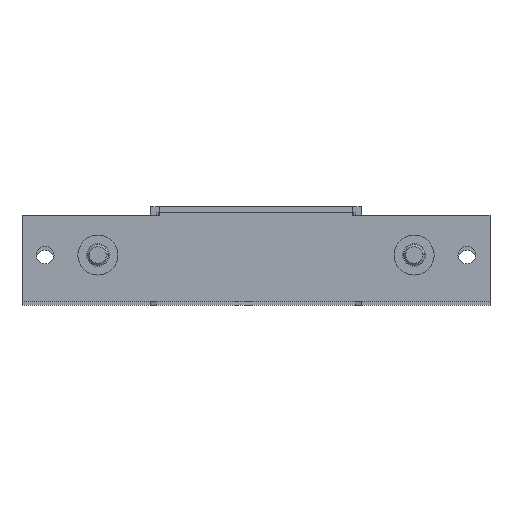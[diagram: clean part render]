
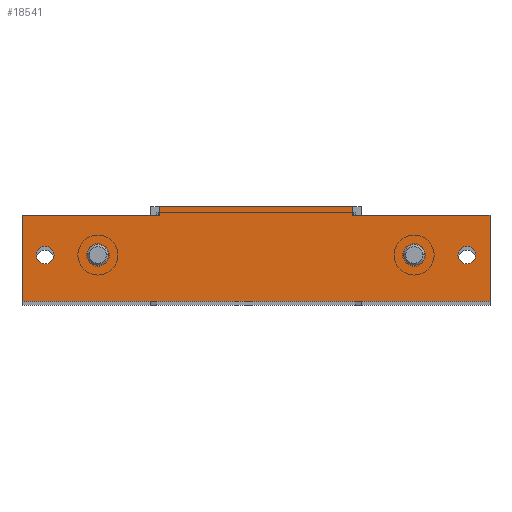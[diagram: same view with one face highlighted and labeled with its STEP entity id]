
A CAD part, top view. The second image highlights one B-rep face of the part: STEP entity #18541.
In plain terms, the highlighted planar face has unit normal (0, 0, 1).
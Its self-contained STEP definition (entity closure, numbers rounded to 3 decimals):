
#1906 = VERTEX_POINT('',#1907);
#1907 = CARTESIAN_POINT('',(-47.9,-11.5,273.5));
#1913 = EDGE_CURVE('',#1914,#1906,#1916,.T.);
#1914 = VERTEX_POINT('',#1915);
#1915 = CARTESIAN_POINT('',(-52.1,-11.5,273.5));
#1916 = CIRCLE('',#1917,2.1);
#1917 = AXIS2_PLACEMENT_3D('',#1918,#1919,#1920);
#1918 = CARTESIAN_POINT('',(-50.,-11.5,273.5));
#1919 = DIRECTION('',(0.,0.,1.));
#1920 = DIRECTION('',(1.,0.,-0.));
#1948 = VERTEX_POINT('',#1949);
#1949 = CARTESIAN_POINT('',(39.6,-11.5,273.5));
#1955 = EDGE_CURVE('',#1956,#1948,#1958,.T.);
#1956 = VERTEX_POINT('',#1957);
#1957 = CARTESIAN_POINT('',(35.4,-11.5,273.5));
#1958 = CIRCLE('',#1959,2.1);
#1959 = AXIS2_PLACEMENT_3D('',#1960,#1961,#1962);
#1960 = CARTESIAN_POINT('',(37.5,-11.5,273.5));
#1961 = DIRECTION('',(0.,0.,1.));
#1962 = DIRECTION('',(-1.,0.,0.));
#1990 = VERTEX_POINT('',#1991);
#1991 = CARTESIAN_POINT('',(52.1,-11.5,273.5));
#1997 = EDGE_CURVE('',#1998,#1990,#2000,.T.);
#1998 = VERTEX_POINT('',#1999);
#1999 = CARTESIAN_POINT('',(47.9,-11.5,273.5));
#2000 = CIRCLE('',#2001,2.1);
#2001 = AXIS2_PLACEMENT_3D('',#2002,#2003,#2004);
#2002 = CARTESIAN_POINT('',(50.,-11.5,273.5));
#2003 = DIRECTION('',(0.,0.,1.));
#2004 = DIRECTION('',(-1.,0.,0.));
#2032 = VERTEX_POINT('',#2033);
#2033 = CARTESIAN_POINT('',(-35.4,-11.5,273.5));
#2039 = EDGE_CURVE('',#2040,#2032,#2042,.T.);
#2040 = VERTEX_POINT('',#2041);
#2041 = CARTESIAN_POINT('',(-39.6,-11.5,273.5));
#2042 = CIRCLE('',#2043,2.1);
#2043 = AXIS2_PLACEMENT_3D('',#2044,#2045,#2046);
#2044 = CARTESIAN_POINT('',(-37.5,-11.5,273.5));
#2045 = DIRECTION('',(0.,0.,1.));
#2046 = DIRECTION('',(1.,0.,-0.));
#7667 = VERTEX_POINT('',#7668);
#7668 = CARTESIAN_POINT('',(-22.9,0.,273.5));
#7674 = EDGE_CURVE('',#7675,#7667,#7677,.T.);
#7675 = VERTEX_POINT('',#7676);
#7676 = CARTESIAN_POINT('',(22.9,0.,273.5));
#7677 = LINE('',#7678,#7679);
#7678 = CARTESIAN_POINT('',(-25.,0.,273.5));
#7679 = VECTOR('',#7680,1.);
#7680 = DIRECTION('',(-1.,0.,0.));
#18482 = VERTEX_POINT('',#18483);
#18483 = CARTESIAN_POINT('',(22.9,-2.1,273.5));
#18498 = EDGE_CURVE('',#18482,#7675,#18499,.T.);
#18499 = LINE('',#18500,#18501);
#18500 = CARTESIAN_POINT('',(22.9,-2.1,273.5));
#18501 = VECTOR('',#18502,1.);
#18502 = DIRECTION('',(-0.,1.,0.));
#18522 = VERTEX_POINT('',#18523);
#18523 = CARTESIAN_POINT('',(-22.9,-2.1,273.5));
#18529 = EDGE_CURVE('',#18522,#7667,#18530,.T.);
#18530 = LINE('',#18531,#18532);
#18531 = CARTESIAN_POINT('',(-22.9,0.,273.5));
#18532 = VECTOR('',#18533,1.);
#18533 = DIRECTION('',(0.,1.,0.));
#18541 = ADVANCED_FACE('',(#18542,#18552,#18562,#18572,#18582),#18625,
  .T.);
#18542 = FACE_BOUND('',#18543,.T.);
#18543 = EDGE_LOOP('',(#18544,#18551));
#18544 = ORIENTED_EDGE('',*,*,#18545,.F.);
#18545 = EDGE_CURVE('',#1906,#1914,#18546,.T.);
#18546 = CIRCLE('',#18547,2.1);
#18547 = AXIS2_PLACEMENT_3D('',#18548,#18549,#18550);
#18548 = CARTESIAN_POINT('',(-50.,-11.5,273.5));
#18549 = DIRECTION('',(0.,0.,1.));
#18550 = DIRECTION('',(1.,0.,-0.));
#18551 = ORIENTED_EDGE('',*,*,#1913,.F.);
#18552 = FACE_BOUND('',#18553,.T.);
#18553 = EDGE_LOOP('',(#18554,#18561));
#18554 = ORIENTED_EDGE('',*,*,#18555,.F.);
#18555 = EDGE_CURVE('',#1948,#1956,#18556,.T.);
#18556 = CIRCLE('',#18557,2.1);
#18557 = AXIS2_PLACEMENT_3D('',#18558,#18559,#18560);
#18558 = CARTESIAN_POINT('',(37.5,-11.5,273.5));
#18559 = DIRECTION('',(0.,0.,1.));
#18560 = DIRECTION('',(-1.,0.,0.));
#18561 = ORIENTED_EDGE('',*,*,#1955,.F.);
#18562 = FACE_BOUND('',#18563,.T.);
#18563 = EDGE_LOOP('',(#18564,#18571));
#18564 = ORIENTED_EDGE('',*,*,#18565,.F.);
#18565 = EDGE_CURVE('',#1990,#1998,#18566,.T.);
#18566 = CIRCLE('',#18567,2.1);
#18567 = AXIS2_PLACEMENT_3D('',#18568,#18569,#18570);
#18568 = CARTESIAN_POINT('',(50.,-11.5,273.5));
#18569 = DIRECTION('',(0.,0.,1.));
#18570 = DIRECTION('',(-1.,0.,0.));
#18571 = ORIENTED_EDGE('',*,*,#1997,.F.);
#18572 = FACE_BOUND('',#18573,.T.);
#18573 = EDGE_LOOP('',(#18574,#18581));
#18574 = ORIENTED_EDGE('',*,*,#18575,.F.);
#18575 = EDGE_CURVE('',#2032,#2040,#18576,.T.);
#18576 = CIRCLE('',#18577,2.1);
#18577 = AXIS2_PLACEMENT_3D('',#18578,#18579,#18580);
#18578 = CARTESIAN_POINT('',(-37.5,-11.5,273.5));
#18579 = DIRECTION('',(0.,0.,1.));
#18580 = DIRECTION('',(1.,0.,-0.));
#18581 = ORIENTED_EDGE('',*,*,#2039,.F.);
#18582 = FACE_BOUND('',#18583,.T.);
#18583 = EDGE_LOOP('',(#18584,#18594,#18602,#18608,#18609,#18610,#18611,
    #18619));
#18584 = ORIENTED_EDGE('',*,*,#18585,.F.);
#18585 = EDGE_CURVE('',#18586,#18588,#18590,.T.);
#18586 = VERTEX_POINT('',#18587);
#18587 = CARTESIAN_POINT('',(55.5,-22.5,273.5));
#18588 = VERTEX_POINT('',#18589);
#18589 = CARTESIAN_POINT('',(-55.5,-22.5,273.5));
#18590 = LINE('',#18591,#18592);
#18591 = CARTESIAN_POINT('',(-22.9,-22.5,273.5));
#18592 = VECTOR('',#18593,1.);
#18593 = DIRECTION('',(-1.,0.,-0.));
#18594 = ORIENTED_EDGE('',*,*,#18595,.F.);
#18595 = EDGE_CURVE('',#18596,#18586,#18598,.T.);
#18596 = VERTEX_POINT('',#18597);
#18597 = CARTESIAN_POINT('',(55.5,-2.1,273.5));
#18598 = LINE('',#18599,#18600);
#18599 = CARTESIAN_POINT('',(55.5,-19.5,273.5));
#18600 = VECTOR('',#18601,1.);
#18601 = DIRECTION('',(0.,-1.,0.));
#18602 = ORIENTED_EDGE('',*,*,#18603,.F.);
#18603 = EDGE_CURVE('',#18482,#18596,#18604,.T.);
#18604 = LINE('',#18605,#18606);
#18605 = CARTESIAN_POINT('',(22.9,-2.1,273.5));
#18606 = VECTOR('',#18607,1.);
#18607 = DIRECTION('',(1.,0.,0.));
#18608 = ORIENTED_EDGE('',*,*,#18498,.T.);
#18609 = ORIENTED_EDGE('',*,*,#7674,.T.);
#18610 = ORIENTED_EDGE('',*,*,#18529,.F.);
#18611 = ORIENTED_EDGE('',*,*,#18612,.T.);
#18612 = EDGE_CURVE('',#18522,#18613,#18615,.T.);
#18613 = VERTEX_POINT('',#18614);
#18614 = CARTESIAN_POINT('',(-55.5,-2.1,273.5));
#18615 = LINE('',#18616,#18617);
#18616 = CARTESIAN_POINT('',(-22.9,-2.1,273.5));
#18617 = VECTOR('',#18618,1.);
#18618 = DIRECTION('',(-1.,0.,0.));
#18619 = ORIENTED_EDGE('',*,*,#18620,.T.);
#18620 = EDGE_CURVE('',#18613,#18588,#18621,.T.);
#18621 = LINE('',#18622,#18623);
#18622 = CARTESIAN_POINT('',(-55.5,-19.5,273.5));
#18623 = VECTOR('',#18624,1.);
#18624 = DIRECTION('',(0.,-1.,-0.));
#18625 = PLANE('',#18626);
#18626 = AXIS2_PLACEMENT_3D('',#18627,#18628,#18629);
#18627 = CARTESIAN_POINT('',(0.,0.,
    273.5));
#18628 = DIRECTION('',(0.,0.,1.));
#18629 = DIRECTION('',(0.,-1.,0.));
